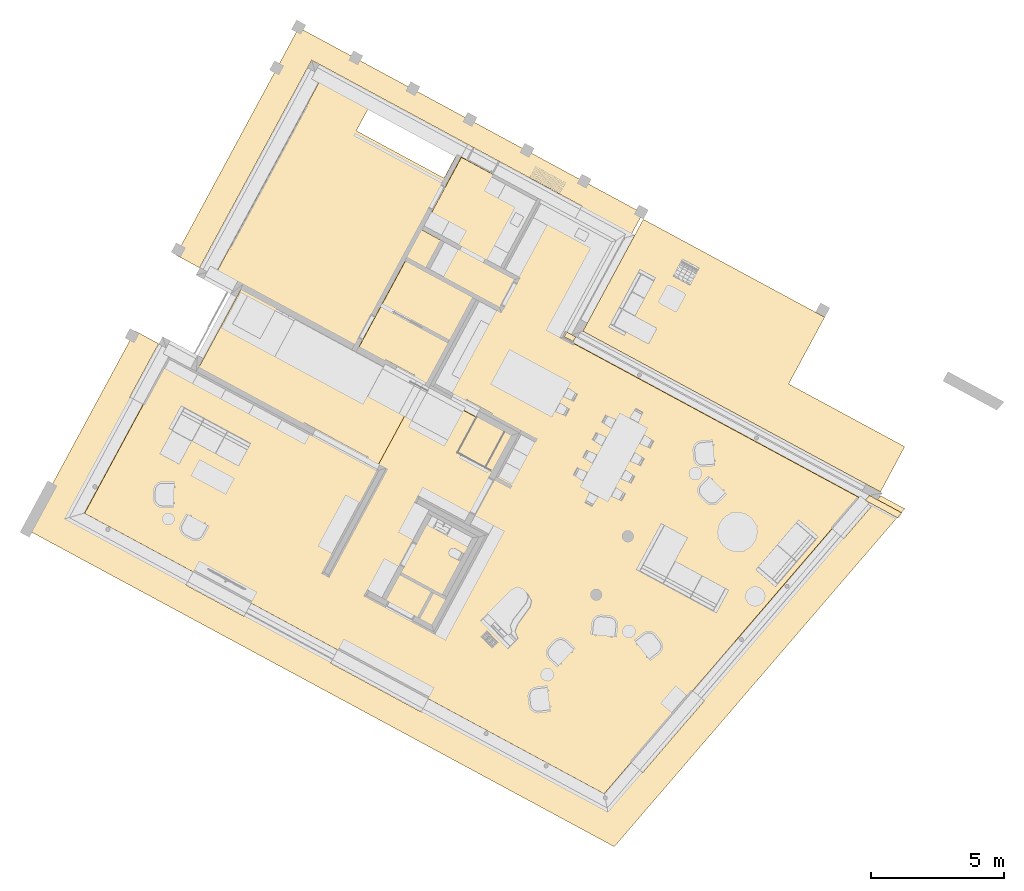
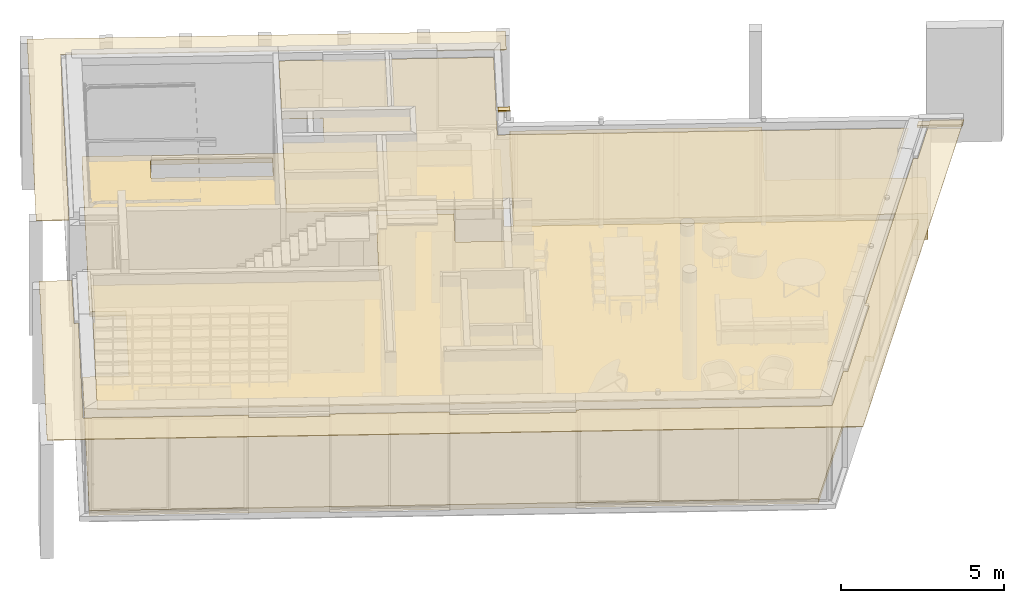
# One storey, part 12 of 36: 7 coverings.
"""IFC2X3 building model written with IfcOpenShell, lengths in metres."""

from ifc_helpers import new_model, entity, si_unit, converted_unit, derived_unit, money_unit, direction, frame, origin_with_axes, place, context, subcontext, project, spatial, polyline, outline, extrude, material, type_object, element, save


model = new_model("IFC2X3")

# Units and contexts
model_context = context("Model", 3, precision=1e-05, world=origin_with_axes(), true_north=direction((0.0, 1.0)))
body_context = subcontext(model_context, "Body", "Model", "MODEL_VIEW")
ifc_project = project(units=[si_unit("LENGTHUNIT", "METRE"), si_unit("AREAUNIT", "SQUARE_METRE"), si_unit("VOLUMEUNIT", "CUBIC_METRE"), converted_unit("PLANEANGLEUNIT", "DEGREE", entity("IfcPlaneAngleMeasure", 0.0174532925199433), si_unit("PLANEANGLEUNIT", "RADIAN"), dimensions=[0, 0, 0, 0, 0, 0, 0]), money_unit("EUR"), converted_unit("TIMEUNIT", "Year", entity("IfcTimeMeasure", 31556926.0), si_unit("TIMEUNIT", "SECOND"), dimensions=[0, 0, 1, 0, 0, 0, 0]), si_unit("MASSUNIT", "GRAM", prefix="KILO"), si_unit("THERMODYNAMICTEMPERATUREUNIT", "DEGREE_CELSIUS"), si_unit("LUMINOUSINTENSITYUNIT", "LUMEN"), si_unit("ENERGYUNIT", "JOULE", prefix="MEGA"), derived_unit("THERMALCONDUCTANCEUNIT", [(si_unit("POWERUNIT", "WATT"), 1), (si_unit("LENGTHUNIT", "METRE"), -1), (si_unit("THERMODYNAMICTEMPERATUREUNIT", "KELVIN"), -1)]), derived_unit("SPECIFICHEATCAPACITYUNIT", [(si_unit("ENERGYUNIT", "JOULE"), 1), (si_unit("MASSUNIT", "GRAM", prefix="KILO"), -1), (si_unit("THERMODYNAMICTEMPERATUREUNIT", "KELVIN"), -1)]), derived_unit("MASSDENSITYUNIT", [(si_unit("MASSUNIT", "GRAM", prefix="KILO"), 1), (si_unit("VOLUMEUNIT", "CUBIC_METRE"), -1)])], contexts=[model_context])

# Site, building, storey
site_placement = place(None, frame((-3.949935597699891, 1.740105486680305, 0.0), z_axis=(0.0, 0.0, 1.0), x_axis=(0.8799804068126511, -0.475009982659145, 0.0)))
site = spatial("IfcSite", under=ifc_project, at=site_placement, Name="Gelände", CompositionType="ELEMENT")
building_placement = place(site_placement, origin_with_axes())
building = spatial("IfcBuilding", under=site, at=building_placement, Name="Gebäude", CompositionType="ELEMENT")
storey_placement = place(building_placement, origin_with_axes())
storey = spatial("IfcBuildingStorey", under=building, at=storey_placement, Name="Erdgeschoss", CompositionType="ELEMENT", Elevation=0.0)

# Coverings
ifc_material_1 = material(Name="Holz, Treppenstufe")
covering_type_1 = type_object("IfcCoveringType", Name="Holz, Treppenstufe 966", PredefinedType="FLOORING")
covering_1_placement = place(storey_placement, frame((25.43796349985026, 20.18527610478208, 0.0), z_axis=(0.0, 0.0, 1.0), x_axis=(1.0, 0.0, 0.0)))
element("IfcCovering", 1, at=covering_1_placement, inside=storey, type_object=covering_type_1, material=ifc_material_1, Name="Decke000", PredefinedType="FLOORING", context=body_context, shape_type="SweptSolid", body=[
    extrude(outline(polyline([(0.0, 0.0), (-7.755488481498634, 0.0), (-7.755470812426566, -4.787230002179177), (4.972968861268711, -4.787230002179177), (4.963330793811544, -2.857470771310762), (0.0, -2.857470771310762), (0.0, 0.0)])), frame((0.0, 0.0, -0.9655039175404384), z_axis=(0.0, 0.0, 1.0), x_axis=(1.0, 0.0, 0.0)), (0.0, 0.0, 1.0), 0.9655039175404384),
])
ifc_material_2 = material(Name="_SIWH - Dämmung, hart Mineralwolle")
covering_type_2 = type_object("IfcCoveringType", Name="_SIWH - Dämmung, hart Mineralwolle 60", PredefinedType="INSULATION")
covering_2_placement = place(storey_placement, frame((17.16747599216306, 15.0830461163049, 4.485000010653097), z_axis=(0.0, 0.0, 1.0), x_axis=(1.0, 0.0, 0.0)))
element("IfcCovering", 2, at=covering_2_placement, inside=storey, type_object=covering_type_2, material=ifc_material_2, Name="Decke017", PredefinedType="INSULATION", context=body_context, shape_type="SweptSolid", body=[
    extrude(outline(polyline([(0.0, 0.0), (9.694326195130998e-07, -0.200000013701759), (0.3800000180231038, -0.2000000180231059), (0.3800000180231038, 4.999213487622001e-09), (0.0, 0.0)])), frame((0.0, 0.0, -0.06), z_axis=(0.0, 0.0, 1.0), x_axis=(1.0, 0.0, 0.0)), (0.0, 0.0, 1.0), 0.06),
])
ifc_material_3 = material(Name="Gipskarton")
covering_type_3 = type_object("IfcCoveringType", Name="Gipskarton 15", PredefinedType="CEILING")
covering_3_placement = place(storey_placement, frame((4.437481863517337, 7.138061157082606, 3.600000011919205), z_axis=(0.0, 0.0, 1.0), x_axis=(1.0, 0.0, 0.0)))
element("IfcCovering", 3, at=covering_3_placement, inside=storey, type_object=covering_type_3, material=ifc_material_3, Name="Decke007", PredefinedType="CEILING", context=body_context, shape_type="SweptSolid", body=[
    extrude(outline(polyline([(0.0, 0.0), (0.0, -6.678050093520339), (6.275006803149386, -6.678050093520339), (9.917512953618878, -6.678050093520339), (17.27501913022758, -6.678050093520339), (22.2147070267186, -6.678061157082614), (25.35282133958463, 7.690039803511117), (12.71500798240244, 7.689987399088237), (12.715069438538, 11.84714857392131), (6.114029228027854, 11.84724615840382), (6.11392057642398, 8.736630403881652), (7.37439162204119, 8.736630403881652), (7.37439162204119, 7.458662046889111), (6.113875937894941, 7.458662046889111), (6.113745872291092, 3.734979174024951), (12.99501185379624, 3.734738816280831), (12.99501337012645, 1.989761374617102), (11.2550382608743, 1.989625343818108), (11.25491980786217, 3.504762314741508), (8.857524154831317, 3.504737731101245), (8.85753581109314, 0.0), (0.0, 0.0)])), origin_with_axes(), (0.0, 0.0, 1.0), 0.015),
])
ifc_material_4 = material(Name="ALLGEMEIN - BAUTEIL")
covering_type_4 = type_object("IfcCoveringType", Name="_SIWH - BO | EG 180", PredefinedType="FLOORING")
covering_4_placement = place(storey_placement, frame((4.182485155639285, 7.393054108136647, 0.0), z_axis=(0.0, 0.0, 1.0), x_axis=(1.0, 0.0, 0.0)))
element("IfcCovering", 4, at=covering_4_placement, inside=storey, type_object=covering_type_4, material=ifc_material_4, Name="Decke008", PredefinedType="FLOORING", context=body_context, shape_type="SweptSolid", body=[
    extrude(outline(polyline([(0.0, 0.0), (0.0, -7.168062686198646), (22.4183758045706, -7.168062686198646), (24.07647172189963, 0.423658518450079), (24.32559897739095, 0.3692470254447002), (25.92451140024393, 7.689991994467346), (13.18500922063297, 7.689991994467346), (13.18499074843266, 11.80722066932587), (0.3150464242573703, 11.80722324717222), (0.3150321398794, 3.479742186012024), (1.429994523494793, 3.479745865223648), (1.430006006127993, 4.718809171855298e-06), (0.0, 0.0)]), holes=[polyline([(2.413916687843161, 10.59221859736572), (2.413916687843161, 11.55722066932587), (6.163911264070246, 11.55722066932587), (6.163911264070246, 10.59221859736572), (2.413916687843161, 10.59221859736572)])]), frame((0.0, 0.0, -0.18), z_axis=(0.0, 0.0, 1.0), x_axis=(1.0, 0.0, 0.0)), (0.0, 0.0, 1.0), 0.18),
])
ifc_material_5 = material(Name="_SIWH - Abgehängte Decke Arkade")
covering_type_5 = type_object("IfcCoveringType", Name="_SIWH - Abgehängte Decke Arkade 25", PredefinedType="CEILING")
covering_5_placement = place(storey_placement, frame((2.84748991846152, -1.110011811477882, 3.615000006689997), z_axis=(0.0, 0.0, 1.0), x_axis=(1.0, 0.0, 0.0)))
element("IfcCovering", 5, at=covering_5_placement, inside=storey, type_object=covering_type_5, material=ifc_material_5, Name="Decke016", PredefinedType="CEILING", context=body_context, shape_type="SweptSolid", body=[
    extrude(outline(polyline([(0.0, 0.0), (25.08927658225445, 0.0), (28.66747456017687, 16.38305792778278), (27.63366856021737, 16.38305792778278), (27.17665058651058, 14.29057675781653), (27.04475969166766, 14.31938279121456), (25.33323604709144, 6.483024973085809), (25.46512695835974, 6.454218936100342), (24.70078280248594, 2.954607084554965), (24.56888980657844, 2.983413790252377), (24.16736359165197, 1.145005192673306), (16.29737078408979, 1.145000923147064), (16.29737085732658, 1.010003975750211), (12.40249882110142, 1.01000186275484), (12.4024988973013, 1.145001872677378), (8.722499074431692, 1.145003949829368), (8.72249899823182, 1.010003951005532), (6.219991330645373, 1.01000535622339), (6.219991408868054, 1.145003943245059), (1.145039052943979, 1.145006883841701), (1.145039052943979, 6.220012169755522), (1.009998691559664, 6.220012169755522), (1.009998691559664, 8.51304605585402), (0.0, 8.51304605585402), (0.0, 0.0)])), frame((0.0, 0.0, -0.025), z_axis=(0.0, 0.0, 1.0), x_axis=(1.0, 0.0, 0.0)), (0.0, 0.0, 1.0), 0.025),
])
covering_6_placement = place(storey_placement, frame((2.84748991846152, 10.64780020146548, 3.615000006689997), z_axis=(0.0, 0.0, 1.0), x_axis=(1.0, 0.0, 0.0)))
element("IfcCovering", 6, at=covering_6_placement, inside=storey, type_object=covering_type_5, material=ifc_material_5, Name="Decke015", PredefinedType="CEILING", context=body_context, shape_type="SweptSolid", body=[
    extrude(outline(polyline([(0.0, 0.0), (1.009998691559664, 0.0), (1.009998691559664, 8.877500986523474), (12.57498028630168, 8.877489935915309), (12.57498098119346, 8.742489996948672), (14.70997828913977, 8.742500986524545), (14.70997828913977, 9.727481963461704), (0.0, 9.727481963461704), (0.0, 0.0)])), frame((0.0, 0.0, -0.025), z_axis=(0.0, 0.0, 1.0), x_axis=(1.0, 0.0, 0.0)), (0.0, 0.0, 1.0), 0.025),
])
ifc_material_6 = material(Name="_SIWH - Dämmung, weich Mineralwolle")
covering_type_6 = type_object("IfcCoveringType", Name="_SIWH - DE | Dämmung 8 | 8cm 80", PredefinedType="INSULATION")
covering_7_placement = place(storey_placement, frame((30.0545799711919, 14.84304610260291, 3.7), z_axis=(0.0, 0.0, 1.0), x_axis=(1.0, 0.0, 0.0)))
element("IfcCovering", 7, at=covering_7_placement, inside=storey, type_object=covering_type_6, material=ifc_material_6, Name="Decke018", PredefinedType="INSULATION", context=body_context, shape_type="SweptSolid", body=[
    extrude(outline(polyline([(0.0, 0.0), (1.376704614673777, 1.307815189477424e-08), (1.429122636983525, 0.2400000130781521), (0.0524153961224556, 0.2400000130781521), (0.0, 0.0)])), frame((0.0, 0.0, -0.08), z_axis=(0.0, 0.0, 1.0), x_axis=(1.0, 0.0, 0.0)), (0.0, 0.0, 1.0), 0.08),
])

save(model, "model.ifc")
